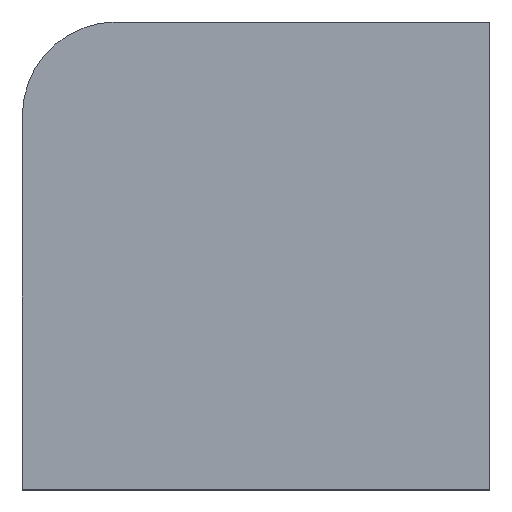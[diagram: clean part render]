
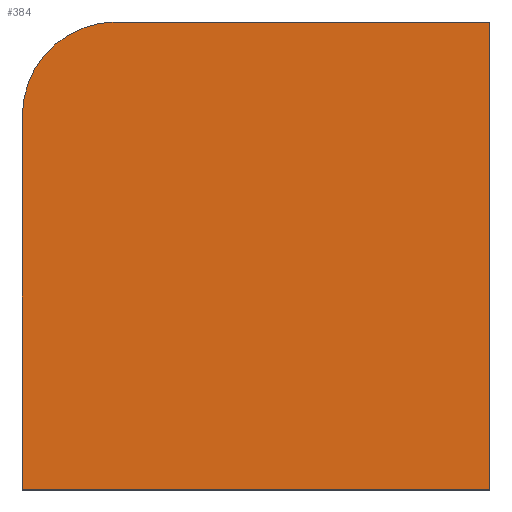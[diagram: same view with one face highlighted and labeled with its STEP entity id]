
A CAD part, top view. The second image highlights one B-rep face of the part: STEP entity #384.
In plain terms, the highlighted planar face has unit normal (0, 0, 1).
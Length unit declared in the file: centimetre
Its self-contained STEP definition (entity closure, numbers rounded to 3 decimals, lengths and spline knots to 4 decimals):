
#11 = FACE_OUTER_BOUND ( 'NONE', #169, .T. ) ;
#28 = CIRCLE ( 'NONE', #857, 200.5496 ) ;
#52 = ORIENTED_EDGE ( 'NONE', *, *, #543, .T. ) ;
#61 = ORIENTED_EDGE ( 'NONE', *, *, #624, .T. ) ;
#64 = LINE ( 'NONE', #234, #459 ) ;
#141 = CARTESIAN_POINT ( 'NONE',  ( 0., 0., 1000. ) ) ;
#149 = CARTESIAN_POINT ( 'NONE',  ( 200.5496, 799.4504, 1000. ) ) ;
#158 = DIRECTION ( 'NONE',  ( 0., 0., 1. ) ) ;
#169 = EDGE_LOOP ( 'NONE', ( #52, #61, #623, #259, #574 ) ) ;
#190 = DIRECTION ( 'NONE',  ( 0., -1., 0. ) ) ;
#217 = AXIS2_PLACEMENT_3D ( 'NONE', #141, #444, #560 ) ;
#234 = CARTESIAN_POINT ( 'NONE',  ( 1000., 1000., 1000. ) ) ;
#239 = CARTESIAN_POINT ( 'NONE',  ( 0., 0., 1000. ) ) ;
#259 = ORIENTED_EDGE ( 'NONE', *, *, #450, .T. ) ;
#305 = EDGE_CURVE ( 'NONE', #862, #428, #64, .T. ) ;
#325 = LINE ( 'NONE', #551, #728 ) ;
#328 = VERTEX_POINT ( 'NONE', #385 ) ;
#341 = CARTESIAN_POINT ( 'NONE',  ( 1000., 1000., 1000. ) ) ;
#384 = ADVANCED_FACE ( 'NONE', ( #11 ), #823, .T. ) ;
#385 = CARTESIAN_POINT ( 'NONE',  ( 200.5496, 1000., 1000. ) ) ;
#428 = VERTEX_POINT ( 'NONE', #341 ) ;
#444 = DIRECTION ( 'NONE',  ( 0., 0., 1. ) ) ;
#450 = EDGE_CURVE ( 'NONE', #555, #862, #722, .T. ) ;
#452 = DIRECTION ( 'NONE',  ( 1., 0., 0. ) ) ;
#459 = VECTOR ( 'NONE', #608, 100. ) ;
#517 = VERTEX_POINT ( 'NONE', #724 ) ;
#532 = DIRECTION ( 'NONE',  ( -1., 0., 0. ) ) ;
#543 = EDGE_CURVE ( 'NONE', #428, #328, #927, .T. ) ;
#551 = CARTESIAN_POINT ( 'NONE',  ( 0., 1000., 1000. ) ) ;
#555 = VERTEX_POINT ( 'NONE', #239 ) ;
#560 = DIRECTION ( 'NONE',  ( 1., 0., 0. ) ) ;
#574 = ORIENTED_EDGE ( 'NONE', *, *, #305, .T. ) ;
#608 = DIRECTION ( 'NONE',  ( 0., 1., 0. ) ) ;
#617 = VECTOR ( 'NONE', #532, 100. ) ;
#623 = ORIENTED_EDGE ( 'NONE', *, *, #773, .T. ) ;
#624 = EDGE_CURVE ( 'NONE', #328, #517, #28, .T. ) ;
#645 = CARTESIAN_POINT ( 'NONE',  ( 0., 0., 1000. ) ) ;
#657 = DIRECTION ( 'NONE',  ( 1., 0., 0. ) ) ;
#722 = LINE ( 'NONE', #645, #776 ) ;
#724 = CARTESIAN_POINT ( 'NONE',  ( 0., 799.4504, 1000. ) ) ;
#728 = VECTOR ( 'NONE', #190, 100. ) ;
#773 = EDGE_CURVE ( 'NONE', #517, #555, #325, .T. ) ;
#776 = VECTOR ( 'NONE', #657, 100. ) ;
#823 = PLANE ( 'NONE',  #217 ) ;
#853 = CARTESIAN_POINT ( 'NONE',  ( 1000., 0., 1000. ) ) ;
#857 = AXIS2_PLACEMENT_3D ( 'NONE', #149, #158, #452 ) ;
#862 = VERTEX_POINT ( 'NONE', #853 ) ;
#925 = CARTESIAN_POINT ( 'NONE',  ( 0., 1000., 1000. ) ) ;
#927 = LINE ( 'NONE', #925, #617 ) ;
